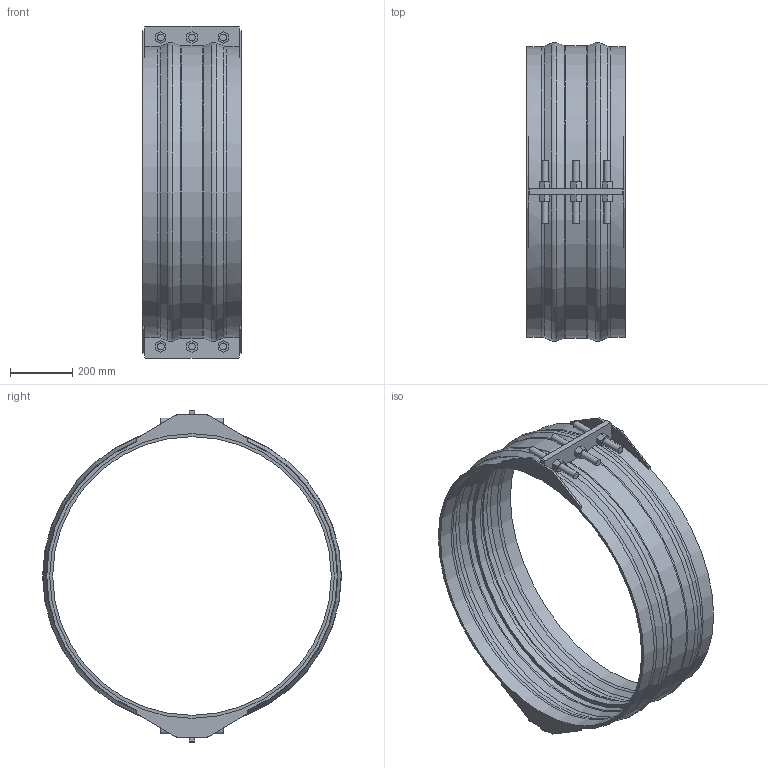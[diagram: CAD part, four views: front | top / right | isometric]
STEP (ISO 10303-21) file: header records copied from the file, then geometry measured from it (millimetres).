
FILE_DESCRIPTION(/* description */ ('VIC RESTRAINED COUPLING STYLE 233 (FLEX) (BRD)','CAx-IF Rec.Pracs.---Representation and Presentation of Product Manufacturing Information (PMI)---4.0---2014-10-13'),/* implementation_level */ '2;1');
FILE_NAME(/* name */ 'C:\Users\Vjadhav\Desktop\CAD for Inventor\Test for STEP\Vivek\Adsk_Inventor_Bolted Sleeve_iParts\STEP\Victaulic_VBSP_Coupling Flexible Restrained_Style 233 (BRD)\Victaulic_VBSP_Coupling Flexible Restrained_Style 233 (BRD)_250psi_36 (900).stp',/* time_stamp */ '2020-09-24T12:29:42+06:00',/* author */ ('Vjadhav'),/* organization */ ('Victaulic'),/* preprocessor_version */ 'ST-DEVELOPER v17.2',/* originating_system */ 'Autodesk Inventor 2019',/* authorisation */ '');
FILE_SCHEMA (('AP242_MANAGED_MODEL_BASED_3D_ENGINEERING_MIM_LF { 1 0 10303 442 1 1 4 }'));
Length unit declared in the file: inch
Products named in the file (1): Style_233_Type_2_250psi-36.0
Bounding box: 317.5 x 960.14 x 1066.8 mm (x, y, z)
Volume: 11521143.6 mm3; surface area: 2294957.2 mm2
Topology: 1 solids, 1 shells, 211 faces, 557 edges, 374 vertices
Faces by surface type: plane 142, cylinder 39, torus 18, cone 12
Full cylindrical faces by diameter (mm): 22.225 x12, 895.35 x1, 914.4 x2, 920.75 x2
Entity records: 7032 total; most frequent: CARTESIAN_POINT 1384, ORIENTED_EDGE 1114, DIRECTION 1111, EDGE_CURVE 557, VERTEX_POINT 374, LINE 373, VECTOR 373, AXIS2_PLACEMENT_3D 369
